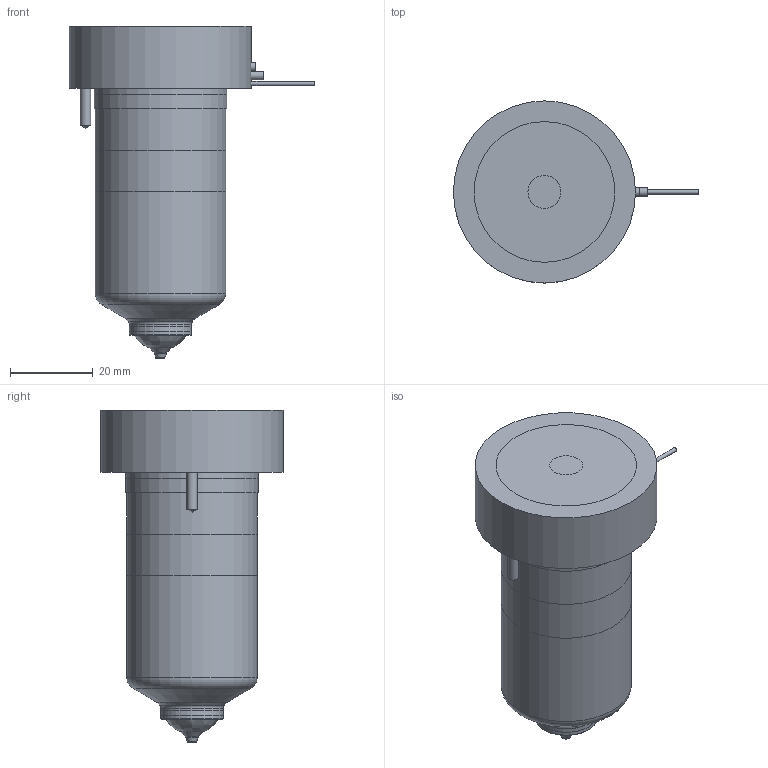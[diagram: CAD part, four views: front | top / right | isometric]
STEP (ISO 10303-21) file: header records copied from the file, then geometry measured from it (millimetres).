
FILE_DESCRIPTION(/* description */ (''),/* implementation_level */ '2;1');
FILE_NAME(/* name */ 'MXOV19065_250C_b',/* time_stamp */ '2007-01-18T09:49:40+13:00',/* author */ (''),/* organization */ (''),/* preprocessor_version */ 'ST-DEVELOPER v9',/* originating_system */ 'UGS - NX 4.0',/* authorisation */ '');
FILE_SCHEMA (('CONFIG_CONTROL_DESIGN'));
Length unit declared in the file: millimetre
Products named in the file (1): MXOV19065_250C_b
Bounding box: 59.25 x 44 x 80.21 mm (x, y, z)
Volume: 119018.1 mm3; surface area: 23399.7 mm2
Topology: 7 solids, 7 shells, 90 faces, 170 edges, 108 vertices
Faces by surface type: plane 37, cylinder 29, cone 13, torus 8, bspline 3
Full cylindrical faces by diameter (mm): 1 x3, 2 x2, 2.5 x2, 3 x1, 8 x1, 10.8 x1, 11 x1, 14.61 x1, 15.01 x2, 18.3 x1, 25.4 x1, 31.5 x2, 32 x2, 44 x1
Entity records: 2172 total; most frequent: CARTESIAN_POINT 466, DIRECTION 366, ORIENTED_EDGE 236, AXIS2_PLACEMENT_3D 170, EDGE_LOOP 146, EDGE_CURVE 118, VERTEX_POINT 99, ADVANCED_FACE 90
